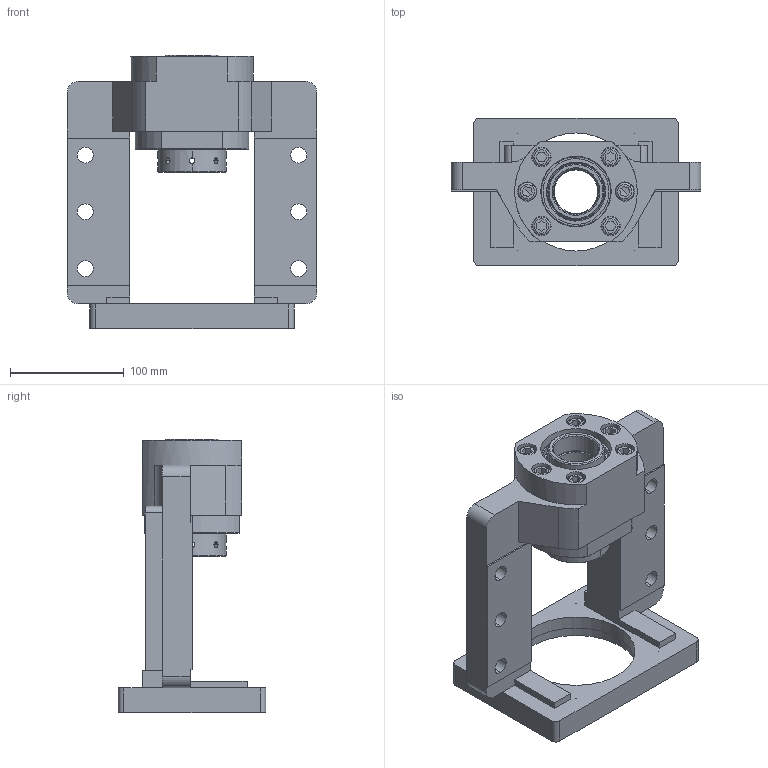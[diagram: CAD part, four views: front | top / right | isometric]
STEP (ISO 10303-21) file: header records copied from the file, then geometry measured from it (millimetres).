
FILE_DESCRIPTION (( 'STEP AP203' ), '1' );
FILE_NAME ('MBCK40L-G²Õ¦X¥ó.STEP', '2025-09-18T05:16:58', ( '' ), ( '' ), 'SwSTEP 2.0', 'SolidWorks 2018', '' );
FILE_SCHEMA (( 'CONFIG_CONTROL_DESIGN' ));
Length unit declared in the file: millimetre
Products named in the file (2): MBCK40L-G組合件
Bounding box: 220 x 130 x 241 mm (x, y, z)
Surface area: 226694.4 mm2 (no closed solid volume)
Topology: 0 solids, 32 shells, 348 faces, 965 edges, 643 vertices
Faces by surface type: cylinder 126, plane 125, cone 66, torus 18, bspline 13
Entity records: 30475 total; most frequent: CARTESIAN_POINT 21507, DIRECTION 1894, ORIENTED_EDGE 1679, EDGE_CURVE 953, AXIS2_PLACEMENT_3D 740, VERTEX_POINT 643, EDGE_LOOP 426, VECTOR 414
